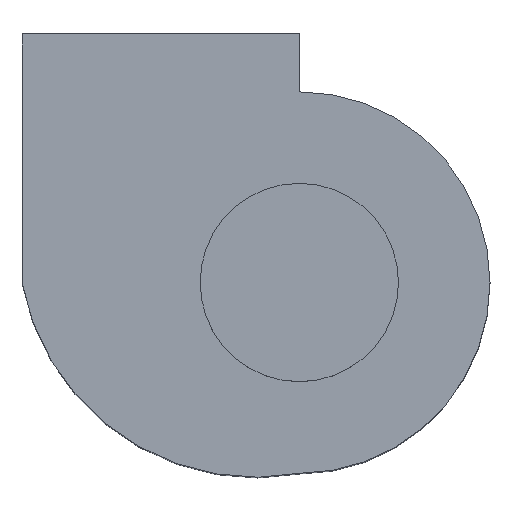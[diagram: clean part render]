
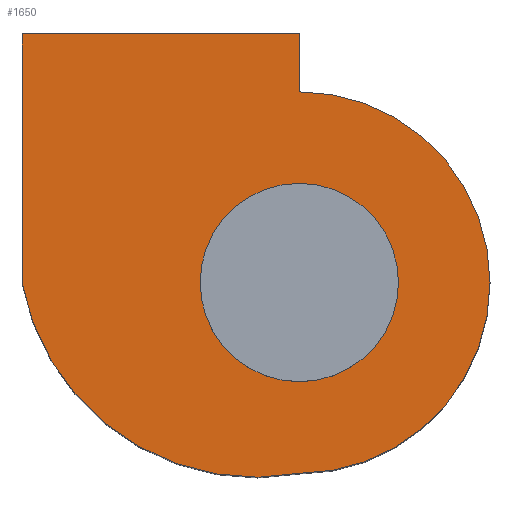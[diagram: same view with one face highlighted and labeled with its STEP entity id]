
A CAD part, top view. The second image highlights one B-rep face of the part: STEP entity #1650.
In plain terms, the highlighted planar face has unit normal (0, 0, 1).
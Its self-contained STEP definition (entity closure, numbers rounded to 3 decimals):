
#132 = CARTESIAN_POINT ( 'NONE',  ( -181.744, 162.927, 124.5 ) ) ;
#281 = EDGE_CURVE ( 'NONE', #823, #1323, #2183, .T. ) ;
#289 = ORIENTED_EDGE ( 'NONE', *, *, #978, .F. ) ;
#370 = LINE ( 'NONE', #1059, #2559 ) ;
#481 = DIRECTION ( 'NONE',  ( 0., 0., -1. ) ) ;
#567 = VECTOR ( 'NONE', #2723, 1000. ) ;
#586 = DIRECTION ( 'NONE',  ( 0., 0., -1. ) ) ;
#671 = CARTESIAN_POINT ( 'NONE',  ( 0., 0., 124.5 ) ) ;
#743 = EDGE_CURVE ( 'NONE', #779, #823, #1332, .T. ) ;
#770 = CARTESIAN_POINT ( 'NONE',  ( 0., 0., 124.5 ) ) ;
#779 = VERTEX_POINT ( 'NONE', #3594 ) ;
#823 = VERTEX_POINT ( 'NONE', #2492 ) ;
#973 = PLANE ( 'NONE',  #2552 ) ;
#978 = EDGE_CURVE ( 'NONE', #1575, #2282, #2861, .T. ) ;
#1015 = ORIENTED_EDGE ( 'NONE', *, *, #3695, .T. ) ;
#1059 = CARTESIAN_POINT ( 'NONE',  ( 0., 162.927, 124.5 ) ) ;
#1060 = DIRECTION ( 'NONE',  ( -1., 0., 0. ) ) ;
#1194 = EDGE_CURVE ( 'NONE', #779, #1575, #370, .T. ) ;
#1231 = CARTESIAN_POINT ( 'NONE',  ( 0., 125., 124.5 ) ) ;
#1251 = ORIENTED_EDGE ( 'NONE', *, *, #281, .T. ) ;
#1262 = DIRECTION ( 'NONE',  ( 0., 0., -1. ) ) ;
#1309 = EDGE_LOOP ( 'NONE', ( #289, #3343, #2986, #1251, #2582 ) ) ;
#1310 = CARTESIAN_POINT ( 'NONE',  ( 0., 162.927, 124.5 ) ) ;
#1323 = VERTEX_POINT ( 'NONE', #1675 ) ;
#1332 = LINE ( 'NONE', #1310, #567 ) ;
#1352 = DIRECTION ( 'NONE',  ( 0., -1., 0. ) ) ;
#1412 = VERTEX_POINT ( 'NONE', #1739 ) ;
#1491 = EDGE_LOOP ( 'NONE', ( #2036, #1015 ) ) ;
#1523 = CARTESIAN_POINT ( 'NONE',  ( 65., 0., 124.5 ) ) ;
#1575 = VERTEX_POINT ( 'NONE', #1231 ) ;
#1650 = ADVANCED_FACE ( 'NONE', ( #3329, #1829 ), #973, .F. ) ;
#1653 = CARTESIAN_POINT ( 'NONE',  ( -28.372, 28.372, 124.5 ) ) ;
#1675 = CARTESIAN_POINT ( 'NONE',  ( -181.744, 0., 124.5 ) ) ;
#1739 = CARTESIAN_POINT ( 'NONE',  ( -65., 0., 124.5 ) ) ;
#1776 = CARTESIAN_POINT ( 'NONE',  ( 0., -125., 124.5 ) ) ;
#1818 = AXIS2_PLACEMENT_3D ( 'NONE', #2196, #481, #2466 ) ;
#1829 = FACE_OUTER_BOUND ( 'NONE', #1309, .T. ) ;
#1942 = DIRECTION ( 'NONE',  ( 1., 0., 0. ) ) ;
#2034 = CIRCLE ( 'NONE', #1818, 65. ) ;
#2036 = ORIENTED_EDGE ( 'NONE', *, *, #3290, .T. ) ;
#2145 = DIRECTION ( 'NONE',  ( 0., -1., 0. ) ) ;
#2155 = AXIS2_PLACEMENT_3D ( 'NONE', #770, #2742, #1060 ) ;
#2183 = LINE ( 'NONE', #132, #2832 ) ;
#2196 = CARTESIAN_POINT ( 'NONE',  ( 0., 0., 124.5 ) ) ;
#2282 = VERTEX_POINT ( 'NONE', #1776 ) ;
#2300 = CARTESIAN_POINT ( 'NONE',  ( 0., 0., 124.5 ) ) ;
#2407 = AXIS2_PLACEMENT_3D ( 'NONE', #2300, #586, #2577 ) ;
#2415 = CIRCLE ( 'NONE', #2704, 155.974 ) ;
#2421 = VERTEX_POINT ( 'NONE', #1523 ) ;
#2466 = DIRECTION ( 'NONE',  ( -1., 0., 0. ) ) ;
#2492 = CARTESIAN_POINT ( 'NONE',  ( -181.744, 162.927, 124.5 ) ) ;
#2552 = AXIS2_PLACEMENT_3D ( 'NONE', #671, #1262, #3235 ) ;
#2559 = VECTOR ( 'NONE', #1352, 1000. ) ;
#2577 = DIRECTION ( 'NONE',  ( -1., 0., 0. ) ) ;
#2582 = ORIENTED_EDGE ( 'NONE', *, *, #3332, .T. ) ;
#2704 = AXIS2_PLACEMENT_3D ( 'NONE', #1653, #3628, #1942 ) ;
#2723 = DIRECTION ( 'NONE',  ( -1., 0., 0. ) ) ;
#2742 = DIRECTION ( 'NONE',  ( 0., 0., -1. ) ) ;
#2832 = VECTOR ( 'NONE', #2145, 1000. ) ;
#2861 = CIRCLE ( 'NONE', #2407, 125. ) ;
#2986 = ORIENTED_EDGE ( 'NONE', *, *, #743, .T. ) ;
#3235 = DIRECTION ( 'NONE',  ( -1., 0., 0. ) ) ;
#3252 = CIRCLE ( 'NONE', #2155, 65. ) ;
#3290 = EDGE_CURVE ( 'NONE', #1412, #2421, #3252, .T. ) ;
#3329 = FACE_BOUND ( 'NONE', #1491, .T. ) ;
#3332 = EDGE_CURVE ( 'NONE', #1323, #2282, #2415, .T. ) ;
#3343 = ORIENTED_EDGE ( 'NONE', *, *, #1194, .F. ) ;
#3594 = CARTESIAN_POINT ( 'NONE',  ( 0., 162.927, 124.5 ) ) ;
#3628 = DIRECTION ( 'NONE',  ( 0., 0., 1. ) ) ;
#3695 = EDGE_CURVE ( 'NONE', #2421, #1412, #2034, .T. ) ;
